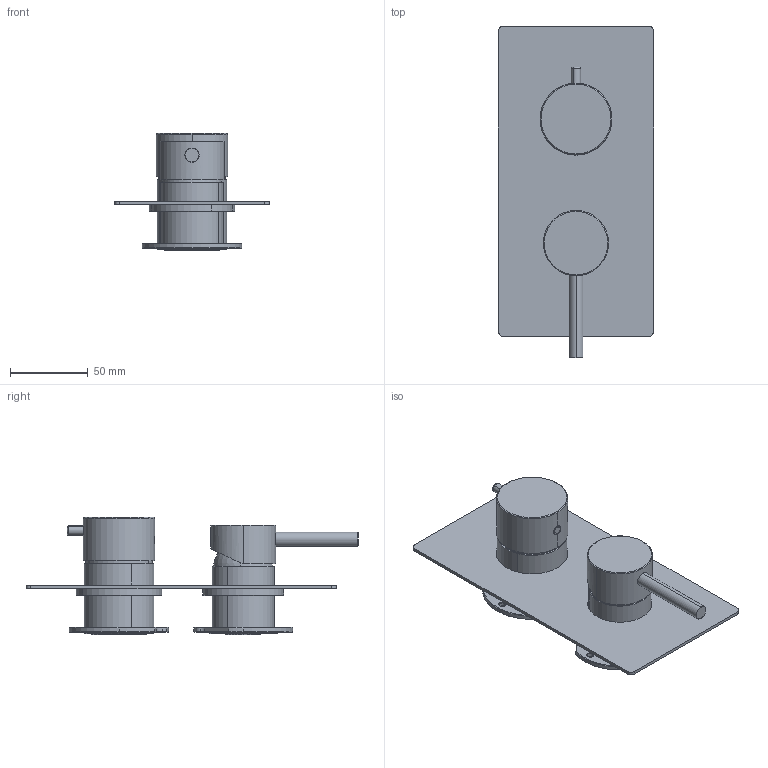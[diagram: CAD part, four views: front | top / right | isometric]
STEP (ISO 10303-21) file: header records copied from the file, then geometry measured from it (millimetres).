
FILE_DESCRIPTION (( 'STEP AP203' ), '1' );
FILE_NAME ('EMN3.STEP', '2024-01-30T07:29:57', ( '' ), ( '' ), 'SwSTEP 2.0', 'SolidWorks 2023', '' );
FILE_SCHEMA (( 'CONFIG_CONTROL_DESIGN' ));
Length unit declared in the file: millimetre
Products named in the file (27): C24.1835.00.0; AS746_01; C25.2056.00.0; C24.1967.00.0; C24.1836.00.1; C25.2694.00; EMN3; C24.2156.00.0; AS1080; C47.00.0015; C12.00.0057; C24.1837.00.0; C47.00.0023.01; C24.1831.00.0; C12.00.0058; C11.10.0045; C10.00.0015; AS745_00; AS747_00; C25.1355.00.0; C18.12.0005.01; C25.2055.00.0; C31.00.0006.01; C24.1830.00.0; C11.14.0009; C47.00.0016; C10.00.0005
Assembly tree (26 placements, depth 4):
  EMN3
    AS1080
      C25.2694.00
      C25.2055.00.0
      C25.2056.00.0
    AS745_00
      C24.1831.00.0
      C24.1836.00.1
      C10.00.0005
      C47.00.0016
      C24.1967.00.0
      C12.00.0058
      AS746_01
        C24.1835.00.0
        C24.2156.00.0
        C11.14.0009
        C25.1355.00.0
        C47.00.0023.01
        C11.10.0045
    AS747_00
      C47.00.0015
      C10.00.0015
      C24.1830.00.0
      C12.00.0057
      C24.1837.00.0
      C31.00.0006.01
    C18.12.0005.01
Bounding box: 100 x 214 x 75.5 mm (x, y, z)
Volume: 209065.2 mm3; surface area: 140197.9 mm2
Topology: 26 solids, 26 shells, 1217 faces, 2834 edges, 1697 vertices
Faces by surface type: cylinder 507, plane 300, cone 173, bspline 132, torus 73, sphere 32
Entity records: 40500 total; most frequent: CARTESIAN_POINT 9920, DIRECTION 6218, ORIENTED_EDGE 5580, EDGE_CURVE 2790, AXIS2_PLACEMENT_3D 2547, VERTEX_POINT 1697, CIRCLE 1429, EDGE_LOOP 1373
